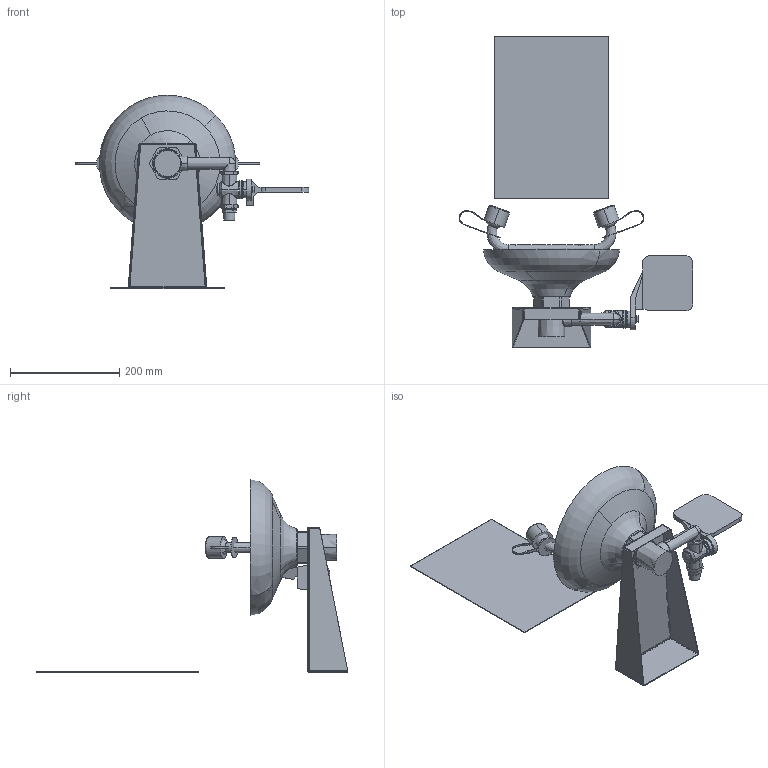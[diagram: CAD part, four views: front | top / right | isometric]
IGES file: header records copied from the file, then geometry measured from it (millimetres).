
Start section:  PTC IGES file: 8408-nf_REV032917.igs
Global section: file name: 8408-nf_REV032917.igs; native system: Creo Parametric by PTC Inc.; preprocessor: 2014500; author: dmisv; organization: Unknown; date: 20170329.153605; units: inch
Bounding box: 427.54 x 571 x 353.52 mm (x, y, z)
Surface area: 485087.2 mm2 (no closed solid volume)
Topology: 0 solids, 32 shells, 330 faces, 1066 edges, 742 vertices
Faces by surface type: revolution 201, bspline 125, extrusion 4
